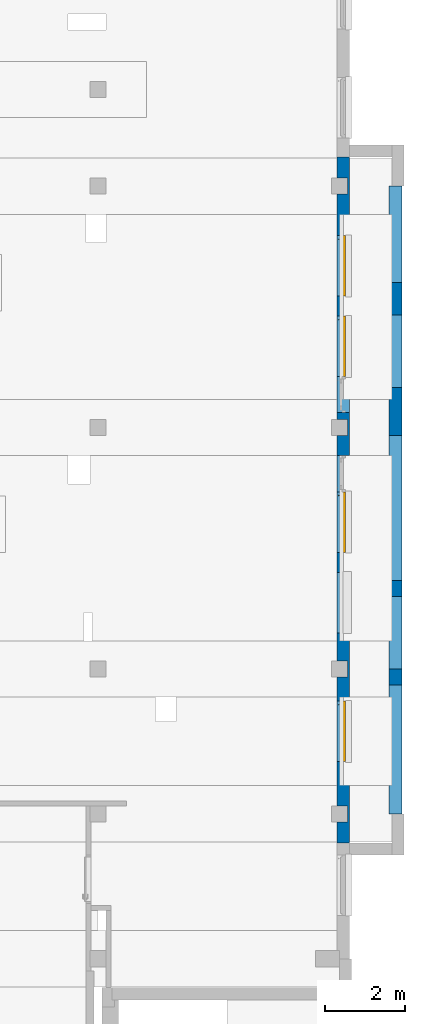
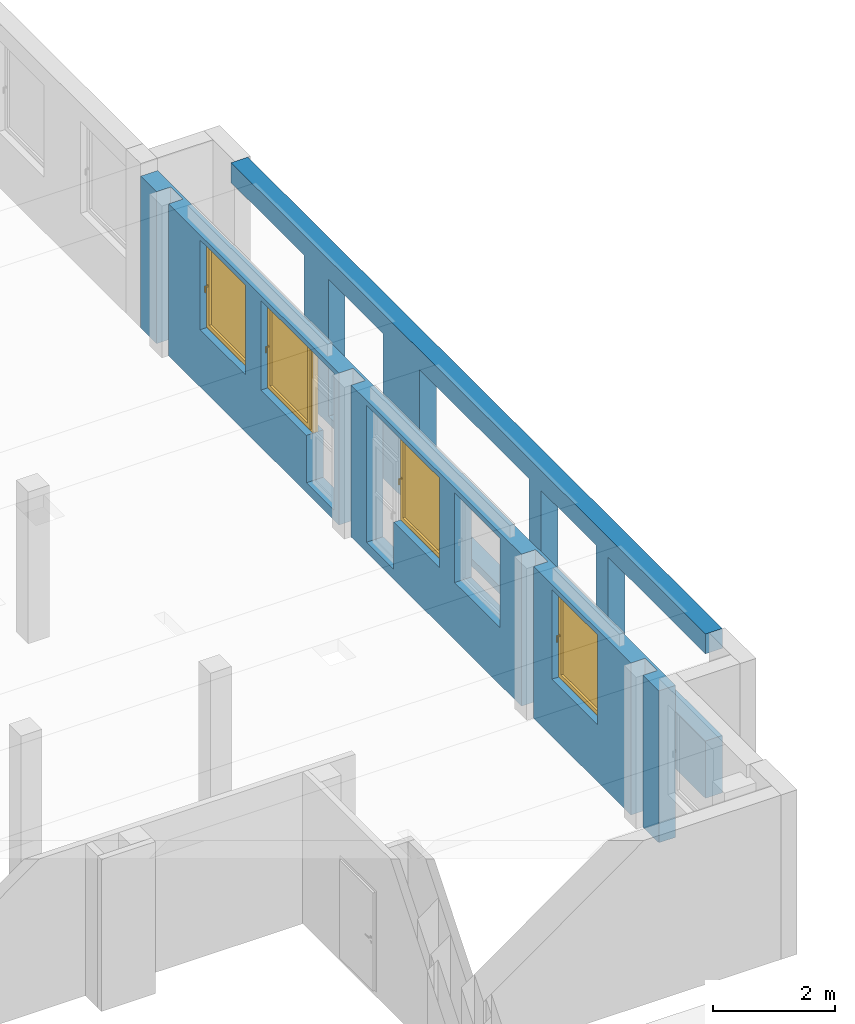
# One storey, part 8 of 27: 4 windows, 2 walls, 12 openings.
"""IFC4 building model written with IfcOpenShell, lengths in metres."""

from ifc_helpers import new_model, entity, si_unit, converted_unit, derived_unit, frame, frame_2d, origin, origin_with_axes, place, context, subcontext, project, spatial, polyline, rectangle, outline, extrude, closed_shell, open_shell, surface_model, source, transform, mapped, material, layer, layer_set, layer_usage, element, fill, save


model = new_model("IFC4")

# Units and contexts
model_context = context("Model", 3, precision=1e-05, world=origin())
body_context = subcontext(model_context, "Body", "Model", "MODEL_VIEW")
ifc_project = project(units=[si_unit("LENGTHUNIT", "METRE"), si_unit("AREAUNIT", "SQUARE_METRE"), si_unit("VOLUMEUNIT", "CUBIC_METRE"), si_unit("MASSUNIT", "GRAM", prefix="KILO"), converted_unit("PLANEANGLEUNIT", "DEGREE", entity("IfcPlaneAngleMeasure", 0.0174532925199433), si_unit("PLANEANGLEUNIT", "RADIAN"), dimensions=[0, 0, 0, 0, 0, 0, 0]), derived_unit("THERMALTRANSMITTANCEUNIT", [(si_unit("POWERUNIT", "WATT"), 1), (si_unit("THERMODYNAMICTEMPERATUREUNIT", "KELVIN"), -1), (si_unit("LENGTHUNIT", "METRE"), -2)]), derived_unit("VOLUMETRICFLOWRATEUNIT", [(si_unit("LENGTHUNIT", "METRE"), 3), (converted_unit("TIMEUNIT", "hour", entity("IfcTimeMeasure", 3600.0), si_unit("TIMEUNIT", "SECOND"), dimensions=[0, 0, 1, 0, 0, 0, 0]), -1), (si_unit("LENGTHUNIT", "METRE"), -1)])], contexts=[model_context])

# Site, building, storey
site_placement = place(None, origin())
site = spatial("IfcSite", under=ifc_project, at=site_placement, Name="3. ASŘ", CompositionType="ELEMENT")
building_placement = place(site_placement, origin())
building = spatial("IfcBuilding", under=site, at=building_placement, Name="Pavilon C", CompositionType="ELEMENT")
storey_placement = place(building_placement, frame((0.0, 0.0, 7.2)))
storey = spatial("IfcBuildingStorey", under=building, at=storey_placement, Name="Půdorys 3.NP", CompositionType="ELEMENT", Elevation=7.2)

# Wall, openings, windows
ifc_material_1 = material(Name="PLYNOSILIKÁT")
ifc_layer_1 = layer(ifc_material_1, 0.32)
ifc_layer_set_1 = layer_set([ifc_layer_1])
ifc_layer_usage_1 = layer_usage(ifc_layer_set_1, "AXIS2", "POSITIVE", 0.0)
wall_1_placement = place(storey_placement, frame((50.2, 2.88, -0.1), z_axis=(0.0, 0.0, 1.0), x_axis=(0.0, 1.0, 0.0)))
wall_1 = element("IfcWall", 1, at=wall_1_placement, inside=storey, material=ifc_layer_usage_1, Name="PLYNOSILIKÁT", context=body_context, shape_type="SweptSolid", body=[
    extrude(outline(polyline([(0.0, -0.32), (17.04, -0.32), (17.04, 0.0), (16.52, 0.0), (16.52, -0.27), (16.12, -0.27), (16.12, 0.0), (10.52, 0.0), (10.52, -0.27), (10.12, -0.27), (10.12, 0.0), (4.52, 0.0), (4.52, -0.27), (4.12, -0.27), (4.12, 0.0), (0.919999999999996, 0.0), (0.919999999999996, -0.27), (0.519999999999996, -0.27), (0.519999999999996, 0.0), (0.0, 0.0), (0.0, -0.32)])), frame((0.0, 0.32, 0.0), z_axis=(0.0, 0.0, 1.0), x_axis=(1.0, 0.0, 0.0)), (0.0, 0.0, 1.0), 3.05),
])
opening_1_placement = place(wall_1_placement, frame((5.21999999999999, 0.0, 1.15), z_axis=(0.0, 1.0, 0.0), x_axis=(0.0, 0.0, 1.0)))
element("IfcOpeningElement", 2, at=opening_1_placement, cuts=wall_1, Name="Okenní otvor", ObjectType="Opening", context=body_context, shape_type="SweptSolid", body=[
    extrude(outline(polyline([(0.0, 1.5), (1.8, 1.5), (1.8, 0.0), (0.0, 0.0), (0.0, 1.5)])), origin_with_axes(), (0.0, 0.0, 1.0), 0.32),
])
opening_2_placement = place(wall_1_placement, frame((2.02, 0.0, 1.15), z_axis=(0.0, 1.0, 0.0), x_axis=(0.0, 0.0, 1.0)))
opening_2 = element("IfcOpeningElement", 3, at=opening_2_placement, cuts=wall_1, Name="Okenní otvor", ObjectType="Opening", context=body_context, shape_type="SweptSolid", body=[
    extrude(outline(polyline([(0.0, 1.5), (1.8, 1.5), (1.8, 0.0), (0.0, 0.0), (0.0, 1.5)])), origin_with_axes(), (0.0, 0.0, 1.0), 0.32),
])
opening_3_placement = place(wall_1_placement, frame((8.71999999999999, 0.0, 0.2), z_axis=(0.0, 1.0, 0.0), x_axis=(0.0, 0.0, 1.0)))
element("IfcOpeningElement", 4, at=opening_3_placement, cuts=wall_1, Name="Dveřní otvor", ObjectType="Opening", context=body_context, shape_type="SweptSolid", body=[
    extrude(outline(polyline([(0.0, 0.9), (2.75, 0.9), (2.75, 0.0), (0.0, 0.0), (0.0, 0.9)])), origin_with_axes(), (0.0, 0.0, 1.0), 0.32),
])
opening_4_placement = place(wall_1_placement, frame((7.21999999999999, 0.0, 1.15), z_axis=(0.0, 1.0, 0.0), x_axis=(0.0, 0.0, 1.0)))
opening_4 = element("IfcOpeningElement", 5, at=opening_4_placement, cuts=wall_1, Name="Okenní otvor", ObjectType="Opening", context=body_context, shape_type="SweptSolid", body=[
    extrude(outline(polyline([(0.0, 1.5), (1.8, 1.5), (1.8, 0.0), (0.0, 0.0), (0.0, 1.5)])), origin_with_axes(), (0.0, 0.0, 1.0), 0.32),
])
opening_5_placement = place(wall_1_placement, frame((13.59, 0.0, 1.15), z_axis=(0.0, 1.0, 0.0), x_axis=(0.0, 0.0, 1.0)))
opening_5 = element("IfcOpeningElement", 6, at=opening_5_placement, cuts=wall_1, Name="Okenní otvor", ObjectType="Opening", context=body_context, shape_type="SweptSolid", body=[
    extrude(outline(polyline([(0.0, 1.5), (1.8, 1.5), (1.8, 0.0), (0.0, 0.0), (0.0, 1.5)])), origin_with_axes(), (0.0, 0.0, 1.0), 0.32),
])
opening_6_placement = place(wall_1_placement, frame((11.59, 0.0, 1.15), z_axis=(0.0, 1.0, 0.0), x_axis=(0.0, 0.0, 1.0)))
opening_6 = element("IfcOpeningElement", 7, at=opening_6_placement, cuts=wall_1, Name="Okenní otvor", ObjectType="Opening", context=body_context, shape_type="SweptSolid", body=[
    extrude(outline(polyline([(0.0, 1.5), (1.8, 1.5), (1.8, 0.0), (0.0, 0.0), (0.0, 1.5)])), origin_with_axes(), (0.0, 0.0, 1.0), 0.32),
])
opening_7_placement = place(wall_1_placement, frame((10.69, 0.0, 0.2), z_axis=(0.0, 1.0, 0.0), x_axis=(0.0, 0.0, 1.0)))
element("IfcOpeningElement", 8, at=opening_7_placement, cuts=wall_1, Name="Dveřní otvor", ObjectType="Opening", context=body_context, shape_type="SweptSolid", body=[
    extrude(outline(polyline([(0.0, 0.9), (2.75, 0.9), (2.75, 0.0), (0.0, 0.0), (0.0, 0.9)])), origin_with_axes(), (0.0, 0.0, 1.0), 0.32),
])
shared_shape = source(origin_with_axes(), body_context, "Body", "SurfaceModel", [
    surface_model("IfcShellBasedSurfaceModel", [(0.0, 0.182, 1.8), (0.0, 0.182, -5.63337527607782e-18), (0.08, 0.182, -5.63337527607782e-18), (0.08, 0.182, 1.8), (0.0, 0.0899999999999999, 5.63337527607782e-18), (0.0, 0.0900000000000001, 1.8), (0.08, 0.0900000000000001, 1.8), (0.08, 0.0899999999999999, 5.63337527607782e-18)], [closed_shell([[[0, 1, 2, 3]], [[4, 5, 6, 7]], [[1, 0, 5, 4]], [[2, 1, 4, 7]], [[3, 2, 7, 6]], [[0, 3, 6, 5]]], orient=[[False], [False], [False], [False], [False], [False]])]),
    surface_model("IfcShellBasedSurfaceModel", [(1.42, 0.182, 1.8), (1.42, 0.182, -5.63337527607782e-18), (1.5, 0.182, -5.63337527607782e-18), (1.5, 0.182, 1.8), (1.42, 0.0899999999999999, 5.63337527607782e-18), (1.42, 0.0900000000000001, 1.8), (1.5, 0.0900000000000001, 1.8), (1.5, 0.0899999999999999, 5.63337527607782e-18)], [closed_shell([[[0, 1, 2, 3]], [[4, 5, 6, 7]], [[1, 0, 5, 4]], [[2, 1, 4, 7]], [[3, 2, 7, 6]], [[0, 3, 6, 5]]], orient=[[False], [False], [False], [False], [False], [False]])]),
    surface_model("IfcShellBasedSurfaceModel", [(0.08, 0.182, 0.08), (0.08, 0.182, -5.63337527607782e-18), (1.42, 0.182, -5.63337527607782e-18), (1.42, 0.182, 0.08), (0.08, 0.0899999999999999, 5.63337527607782e-18), (0.08, 0.0899999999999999, 0.08), (1.42, 0.0899999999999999, 0.08), (1.42, 0.0899999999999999, 5.63337527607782e-18)], [closed_shell([[[0, 1, 2, 3]], [[4, 5, 6, 7]], [[1, 0, 5, 4]], [[2, 1, 4, 7]], [[3, 2, 7, 6]], [[0, 3, 6, 5]]], orient=[[False], [False], [False], [False], [False], [False]])]),
    surface_model("IfcShellBasedSurfaceModel", [(0.08, 0.182, 1.8), (0.08, 0.182, 1.72), (1.42, 0.182, 1.72), (1.42, 0.182, 1.8), (0.08, 0.0900000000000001, 1.72), (0.08, 0.0900000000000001, 1.8), (1.42, 0.0900000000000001, 1.8), (1.42, 0.0900000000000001, 1.72)], [closed_shell([[[0, 1, 2, 3]], [[4, 5, 6, 7]], [[1, 0, 5, 4]], [[2, 1, 4, 7]], [[3, 2, 7, 6]], [[0, 3, 6, 5]]], orient=[[False], [False], [False], [False], [False], [False]])]),
    surface_model("IfcShellBasedSurfaceModel", [(0.05, 0.145, 1.75), (0.05, 0.145, 0.05), (0.13, 0.145, 0.05), (0.13, 0.145, 1.75), (0.05, 0.0599999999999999, 0.05), (0.05, 0.0600000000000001, 1.75), (0.13, 0.0600000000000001, 1.75), (0.13, 0.0599999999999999, 0.05)], [closed_shell([[[0, 1, 2, 3]], [[4, 5, 6, 7]], [[1, 0, 5, 4]], [[2, 1, 4, 7]], [[3, 2, 7, 6]], [[0, 3, 6, 5]]], orient=[[False], [False], [False], [False], [False], [False]])]),
    surface_model("IfcShellBasedSurfaceModel", [(1.37, 0.145, 1.75), (1.37, 0.145, 0.05), (1.45, 0.145, 0.05), (1.45, 0.145, 1.75), (1.37, 0.0599999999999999, 0.05), (1.37, 0.0600000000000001, 1.75), (1.45, 0.0600000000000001, 1.75), (1.45, 0.0599999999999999, 0.05)], [closed_shell([[[0, 1, 2, 3]], [[4, 5, 6, 7]], [[1, 0, 5, 4]], [[2, 1, 4, 7]], [[3, 2, 7, 6]], [[0, 3, 6, 5]]], orient=[[False], [False], [False], [False], [False], [False]])]),
    surface_model("IfcShellBasedSurfaceModel", [(0.13, 0.145, 0.13), (0.13, 0.145, 0.05), (1.37, 0.145, 0.05), (1.37, 0.145, 0.13), (0.13, 0.0599999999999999, 0.05), (0.13, 0.0599999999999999, 0.13), (1.37, 0.0599999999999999, 0.13), (1.37, 0.0599999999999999, 0.05)], [closed_shell([[[0, 1, 2, 3]], [[4, 5, 6, 7]], [[1, 0, 5, 4]], [[2, 1, 4, 7]], [[3, 2, 7, 6]], [[0, 3, 6, 5]]], orient=[[False], [False], [False], [False], [False], [False]])]),
    surface_model("IfcShellBasedSurfaceModel", [(0.13, 0.145, 1.75), (0.13, 0.145, 1.67), (1.37, 0.145, 1.67), (1.37, 0.145, 1.75), (0.13, 0.0600000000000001, 1.67), (0.13, 0.0600000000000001, 1.75), (1.37, 0.0600000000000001, 1.75), (1.37, 0.0600000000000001, 1.67)], [closed_shell([[[0, 1, 2, 3]], [[4, 5, 6, 7]], [[1, 0, 5, 4]], [[2, 1, 4, 7]], [[3, 2, 7, 6]], [[0, 3, 6, 5]]], orient=[[False], [False], [False], [False], [False], [False]])]),
    surface_model("IfcShellBasedSurfaceModel", [(0.0775, 0.06, 0.92), (0.0775, 0.06, 0.88), (0.1025, 0.06, 0.88), (0.1025, 0.06, 0.92), (0.0775, 0.05, 0.88), (0.0775, 0.05, 0.92), (0.1025, 0.05, 0.92), (0.1025, 0.05, 0.88)], [closed_shell([[[0, 1, 2, 3]], [[4, 5, 6, 7]], [[1, 0, 5, 4]], [[2, 1, 4, 7]], [[3, 2, 7, 6]], [[0, 3, 6, 5]]], orient=[[False], [False], [False], [False], [False], [False]])]),
    surface_model("IfcShellBasedSurfaceModel", [(0.1, 0.05, 0.9), (0.0986602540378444, 0.05, 0.905), (0.095, 0.05, 0.908660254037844), (0.09, 0.05, 0.91), (0.085, 0.05, 0.908660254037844), (0.0813397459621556, 0.05, 0.905), (0.08, 0.05, 0.9), (0.0813397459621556, 0.05, 0.895), (0.085, 0.05, 0.891339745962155), (0.09, 0.05, 0.89), (0.095, 0.05, 0.891339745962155), (0.0986602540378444, 0.05, 0.895), (0.1, 0.01, 0.9), (0.0986602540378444, 0.00500000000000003, 0.905), (0.095, 0.00133974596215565, 0.908660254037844), (0.09, 2.8421709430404e-17, 0.91), (0.085, 0.00133974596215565, 0.908660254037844), (0.0813397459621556, 0.00500000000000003, 0.905), (0.08, 0.01, 0.9), (0.0813397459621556, 0.015, 0.895), (0.085, 0.0186602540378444, 0.891339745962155), (0.09, 0.02, 0.89), (0.095, 0.0186602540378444, 0.891339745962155), (0.0986602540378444, 0.015, 0.895), (0.1, 0.01, 0.785), (0.0986602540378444, 0.005, 0.785), (0.095, 0.00133974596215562, 0.785), (0.09, 0.0, 0.785), (0.085, 0.00133974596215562, 0.785), (0.0813397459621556, 0.005, 0.785), (0.08, 0.01, 0.785), (0.0813397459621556, 0.015, 0.785), (0.085, 0.0186602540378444, 0.785), (0.09, 0.02, 0.785), (0.095, 0.0186602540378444, 0.785), (0.0986602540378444, 0.015, 0.785)], [open_shell([[[0, 1, 2, 3, 4, 5, 6, 7, 8, 9, 10, 11]], [[0, 12, 13, 1]], [[1, 13, 14, 2]], [[2, 14, 15, 3]], [[3, 15, 16, 4]], [[4, 16, 17, 5]], [[5, 17, 18, 6]], [[6, 18, 19, 7]], [[7, 19, 20, 8]], [[8, 20, 21, 9]], [[9, 21, 22, 10]], [[10, 22, 23, 11]], [[11, 23, 12, 0]], [[12, 24, 25, 13]], [[13, 25, 26, 14]], [[14, 26, 27, 15]], [[15, 27, 28, 16]], [[16, 28, 29, 17]], [[17, 29, 30, 18]], [[18, 30, 31, 19]], [[19, 31, 32, 20]], [[20, 32, 33, 21]], [[21, 33, 34, 22]], [[22, 34, 35, 23]], [[23, 35, 24, 12]]], orient=[[False], [False], [False], [False], [False], [False], [False], [False], [False], [False], [False], [False], [False], [False], [False], [False], [False], [False], [False], [False], [False], [False], [False], [False], [False]])]),
    surface_model("IfcShellBasedSurfaceModel", [(0.13, 0.1025, 0.13), (1.37, 0.1025, 0.13), (1.37, 0.1025, 1.67), (0.13, 0.1025, 1.67)], [open_shell([[[0, 1, 2, 3]]], orient=[[False]])]),
])
window_1_placement = place(opening_2_placement, frame((0.0, 1.5, 0.282000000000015), z_axis=(1.0, 0.0, 0.0), x_axis=(0.0, -1.0, 2.44929359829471e-16)))
window_1 = element("IfcWindow", 9, at=window_1_placement, inside=storey, Name="O06", OverallHeight=1.8, OverallWidth=1.5, PartitioningType="USERDEFINED", PredefinedType="WINDOW", context=body_context, shape_type="MappedRepresentation", body=[
    mapped(shared_shape, transform((0.0, 0.0, 0.0), x_axis=(1.0, 0.0, 0.0), y_axis=(0.0, 1.0, 0.0), z_axis=(0.0, 0.0, 1.0), scale=1.0)),
])
fill(opening_2, window_1)
window_2_placement = place(opening_4_placement, frame((0.0, 1.5, 0.282000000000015), z_axis=(1.0, 0.0, 0.0), x_axis=(0.0, -1.0, 2.44929359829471e-16)))
window_2 = element("IfcWindow", 10, at=window_2_placement, inside=storey, Name="O06", OverallHeight=1.8, OverallWidth=1.5, PartitioningType="USERDEFINED", PredefinedType="WINDOW", context=body_context, shape_type="MappedRepresentation", body=[
    mapped(shared_shape, transform((0.0, 0.0, 0.0), x_axis=(1.0, 0.0, 0.0), y_axis=(0.0, 1.0, 0.0), z_axis=(0.0, 0.0, 1.0), scale=1.0)),
])
fill(opening_4, window_2)
window_3_placement = place(opening_5_placement, frame((0.0, 1.49999999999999, 0.282000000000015), z_axis=(1.0, 0.0, 0.0), x_axis=(0.0, -1.0, 2.44929359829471e-16)))
window_3 = element("IfcWindow", 11, at=window_3_placement, inside=storey, Name="O06", OverallHeight=1.8, OverallWidth=1.5, PartitioningType="USERDEFINED", PredefinedType="WINDOW", context=body_context, shape_type="MappedRepresentation", body=[
    mapped(shared_shape, transform((0.0, 0.0, 0.0), x_axis=(1.0, 0.0, 0.0), y_axis=(0.0, 1.0, 0.0), z_axis=(0.0, 0.0, 1.0), scale=1.0)),
])
fill(opening_5, window_3)
window_4_placement = place(opening_6_placement, frame((0.0, 1.5, 0.282000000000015), z_axis=(1.0, 0.0, 0.0), x_axis=(0.0, -1.0, 2.44929359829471e-16)))
window_4 = element("IfcWindow", 12, at=window_4_placement, inside=storey, Name="O06", OverallHeight=1.8, OverallWidth=1.5, PartitioningType="USERDEFINED", PredefinedType="WINDOW", context=body_context, shape_type="MappedRepresentation", body=[
    mapped(shared_shape, transform((0.0, 0.0, 0.0), x_axis=(1.0, 0.0, 0.0), y_axis=(0.0, 1.0, 0.0), z_axis=(0.0, 0.0, 1.0), scale=1.0)),
])
fill(opening_6, window_4)

# Wall, openings
ifc_material_2 = material(Name="PLYNOSILIKÁT")
ifc_layer_2 = layer(ifc_material_2, 0.32)
ifc_layer_set_2 = layer_set([ifc_layer_2])
ifc_layer_usage_2 = layer_usage(ifc_layer_set_2, "AXIS2", "POSITIVE", 0.0)
wall_2_placement = place(storey_placement, frame((51.5, 3.59999999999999, -0.1), z_axis=(0.0, 0.0, 1.0), x_axis=(0.0, 1.0, 0.0)))
wall_2 = element("IfcWall", 13, at=wall_2_placement, inside=storey, material=ifc_layer_usage_2, Name="PLYNOSILIKÁT", context=body_context, shape_type="SweptSolid", body=[
    extrude(rectangle(XDim=15.6, YDim=0.32, at=frame_2d((7.8, 0.16), x_axis=(1.0, 0.0))), origin_with_axes(), (0.0, 0.0, 1.0), 3.3),
])
opening_8_placement = place(wall_2_placement, frame((13.2, 0.0, 1.15), z_axis=(0.0, 1.0, 0.0), x_axis=(0.0, 0.0, 1.0)))
element("IfcOpeningElement", 14, at=opening_8_placement, cuts=wall_2, Name="Okenní otvor", ObjectType="Opening", context=body_context, shape_type="SweptSolid", body=[
    extrude(outline(polyline([(0.0, 2.40000000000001), (1.75, 2.40000000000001), (1.75, 0.0), (0.0, 0.0), (0.0, 2.40000000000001)])), origin_with_axes(), (0.0, 0.0, 1.0), 0.32),
])
opening_9_placement = place(wall_2_placement, frame((10.6, 0.0, 0.15), z_axis=(0.0, 1.0, 0.0), x_axis=(0.0, 0.0, 1.0)))
element("IfcOpeningElement", 15, at=opening_9_placement, cuts=wall_2, Name="Okenní otvor", ObjectType="Opening", context=body_context, shape_type="SweptSolid", body=[
    extrude(outline(polyline([(0.0, 1.8), (2.75, 1.8), (2.75, 0.0), (0.0, 0.0), (0.0, 1.8)])), origin_with_axes(), (0.0, 0.0, 1.0), 0.32),
])
opening_10_placement = place(wall_2_placement, frame((5.8, 0.0, 0.15), z_axis=(0.0, 1.0, 0.0), x_axis=(0.0, 0.0, 1.0)))
element("IfcOpeningElement", 16, at=opening_10_placement, cuts=wall_2, Name="Okenní otvor", ObjectType="Opening", context=body_context, shape_type="SweptSolid", body=[
    extrude(outline(polyline([(0.0, 3.6), (2.75, 3.6), (2.75, 0.0), (0.0, 0.0), (0.0, 3.6)])), origin_with_axes(), (0.0, 0.0, 1.0), 0.32),
])
opening_11_placement = place(wall_2_placement, frame((3.6, 0.0, 0.15), z_axis=(0.0, 1.0, 0.0), x_axis=(0.0, 0.0, 1.0)))
element("IfcOpeningElement", 17, at=opening_11_placement, cuts=wall_2, Name="Okenní otvor", ObjectType="Opening", context=body_context, shape_type="SweptSolid", body=[
    extrude(outline(polyline([(0.0, 1.8), (2.75, 1.8), (2.75, 0.0), (0.0, 0.0), (0.0, 1.8)])), origin_with_axes(), (0.0, 0.0, 1.0), 0.32),
])
opening_12_placement = place(wall_2_placement, frame((0.0, 0.0, 1.15), z_axis=(0.0, 1.0, 0.0), x_axis=(0.0, 0.0, 1.0)))
element("IfcOpeningElement", 18, at=opening_12_placement, cuts=wall_2, Name="Okenní otvor", ObjectType="Opening", context=body_context, shape_type="SweptSolid", body=[
    extrude(outline(polyline([(0.0, 3.2), (1.75, 3.2), (1.75, 0.0), (0.0, 0.0), (0.0, 3.2)])), origin_with_axes(), (0.0, 0.0, 1.0), 0.32),
])

save(model, "model.ifc")
